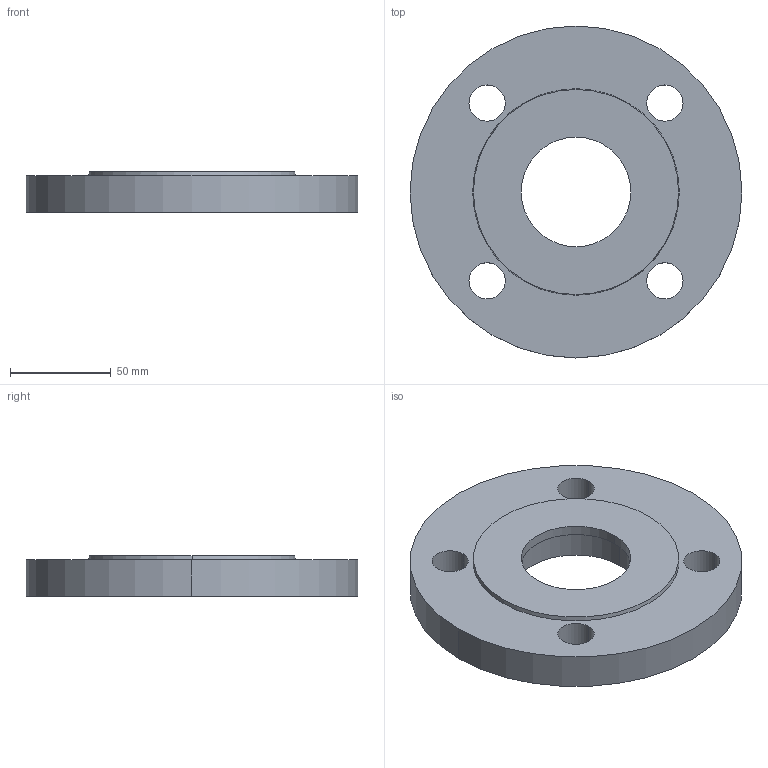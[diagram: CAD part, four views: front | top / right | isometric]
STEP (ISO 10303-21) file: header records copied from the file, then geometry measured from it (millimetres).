
FILE_DESCRIPTION (( 'STEP AP214' ), '1' );
FILE_NAME ('PN40 DN50 Type 05 - Socket (Type B) - Not in Standard.STEP', '2018-12-30T04:42:25', ( '' ), ( '' ), 'SwSTEP 2.0', 'SolidWorks 2019', '' );
FILE_SCHEMA (( 'AUTOMOTIVE_DESIGN' ));
Length unit declared in the file: millimetre
Products named in the file (1): PN40 DN50 Type 05 - Socket (Type B) - Not in Standard
Bounding box: 165 x 165 x 20 mm (x, y, z)
Volume: 326795.7 mm3; surface area: 53759.4 mm2
Topology: 1 solids, 1 shells, 20 faces, 48 edges, 32 vertices
Faces by surface type: cylinder 14, plane 4, cone 2
Entity records: 658 total; most frequent: DIRECTION 122, CARTESIAN_POINT 101, ORIENTED_EDGE 96, AXIS2_PLACEMENT_3D 53, EDGE_CURVE 48, VERTEX_POINT 32, CIRCLE 32, EDGE_LOOP 32
